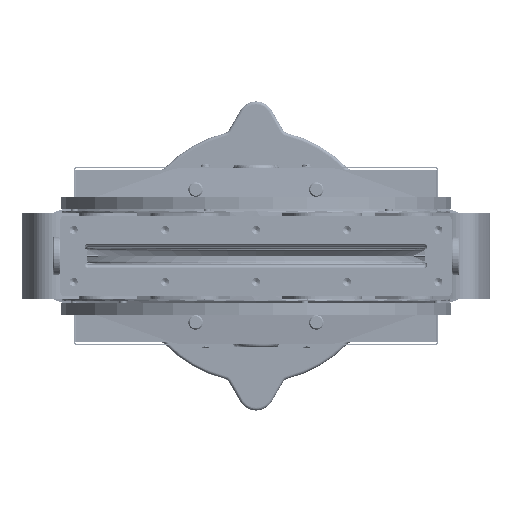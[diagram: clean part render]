
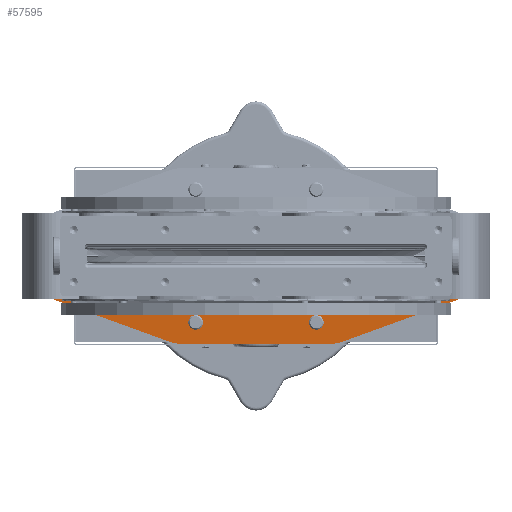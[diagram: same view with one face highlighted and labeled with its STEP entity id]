
A CAD part, front view. The second image highlights one B-rep face of the part: STEP entity #57595.
In plain terms, the highlighted planar face has unit normal (0, -0.996, -0.087).
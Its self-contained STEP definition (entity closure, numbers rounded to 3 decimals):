
#784=ELLIPSE('',#62820,38.145,38.);
#785=ELLIPSE('',#62821,38.145,38.);
#786=ELLIPSE('',#62822,15.057,15.);
#787=ELLIPSE('',#62823,15.057,15.);
#788=ELLIPSE('',#62824,15.057,15.);
#789=ELLIPSE('',#62825,15.057,15.);
#790=ELLIPSE('',#62826,6.023,6.);
#791=ELLIPSE('',#62827,6.544,6.494);
#792=ELLIPSE('',#62828,6.023,6.);
#793=ELLIPSE('',#62829,6.544,6.494);
#1875=FACE_BOUND('',#12107,.T.);
#1876=FACE_BOUND('',#12108,.T.);
#2629=PLANE('',#62819);
#8542=FACE_OUTER_BOUND('',#12106,.T.);
#12106=EDGE_LOOP('',(#45860,#45861,#45862,#45863,#45864,#45865,#45866,#45867,
#45868,#45869,#45870,#45871,#45872,#45873,#45874,#45875));
#12107=EDGE_LOOP('',(#45876,#45877));
#12108=EDGE_LOOP('',(#45878,#45879));
#18878=B_SPLINE_CURVE_WITH_KNOTS('',3,(#102937,#102938,#102939,#102940,
#102941,#102942),.UNSPECIFIED.,.F.,.F.,(4,2,4),(-20.131,-20.1,
-20.094),.UNSPECIFIED.);
#18879=B_SPLINE_CURVE_WITH_KNOTS('',3,(#102950,#102951,#102952,#102953,
#102954,#102955),.UNSPECIFIED.,.F.,.F.,(4,2,4),(-8.474,-8.468,
-8.437),.UNSPECIFIED.);
#20202=LINE('',#101541,#23071);
#20207=LINE('',#101551,#23076);
#20210=LINE('',#101559,#23079);
#20387=LINE('',#102847,#23256);
#20406=LINE('',#102946,#23275);
#20407=LINE('',#102956,#23276);
#20408=LINE('',#102961,#23277);
#20409=LINE('',#102965,#23278);
#23071=VECTOR('',#73812,1.);
#23076=VECTOR('',#73819,1.);
#23079=VECTOR('',#73826,1.);
#23256=VECTOR('',#74433,1.);
#23275=VECTOR('',#74514,1.);
#23276=VECTOR('',#74517,1.);
#23277=VECTOR('',#74522,1.);
#23278=VECTOR('',#74525,1.);
#27324=VERTEX_POINT('',#101538);
#27325=VERTEX_POINT('',#101540);
#27328=VERTEX_POINT('',#101548);
#27329=VERTEX_POINT('',#101550);
#27332=VERTEX_POINT('',#101557);
#27673=VERTEX_POINT('',#102845);
#27674=VERTEX_POINT('',#102846);
#27705=VERTEX_POINT('',#102936);
#27706=VERTEX_POINT('',#102943);
#27707=VERTEX_POINT('',#102945);
#27708=VERTEX_POINT('',#102947);
#27709=VERTEX_POINT('',#102949);
#27710=VERTEX_POINT('',#102958);
#27711=VERTEX_POINT('',#102960);
#27712=VERTEX_POINT('',#102962);
#27713=VERTEX_POINT('',#102964);
#27714=VERTEX_POINT('',#102967);
#27715=VERTEX_POINT('',#102968);
#27716=VERTEX_POINT('',#102971);
#27717=VERTEX_POINT('',#102972);
#33856=EDGE_CURVE('',#27325,#27324,#20202,.T.);
#33861=EDGE_CURVE('',#27328,#27329,#20207,.T.);
#33865=EDGE_CURVE('',#27332,#27328,#20210,.T.);
#34231=EDGE_CURVE('',#27673,#27674,#20387,.F.);
#34270=EDGE_CURVE('',#27332,#27705,#18878,.T.);
#34271=EDGE_CURVE('',#27705,#27706,#784,.F.);
#34272=EDGE_CURVE('',#27706,#27707,#20406,.T.);
#34273=EDGE_CURVE('',#27707,#27708,#785,.F.);
#34274=EDGE_CURVE('',#27708,#27709,#18879,.T.);
#34275=EDGE_CURVE('',#27325,#27709,#20407,.T.);
#34276=EDGE_CURVE('',#27324,#27673,#786,.T.);
#34277=EDGE_CURVE('',#27674,#27710,#787,.T.);
#34278=EDGE_CURVE('',#27710,#27711,#20408,.T.);
#34279=EDGE_CURVE('',#27711,#27712,#788,.T.);
#34280=EDGE_CURVE('',#27712,#27713,#20409,.F.);
#34281=EDGE_CURVE('',#27713,#27329,#789,.T.);
#34282=EDGE_CURVE('',#27714,#27715,#790,.T.);
#34283=EDGE_CURVE('',#27715,#27714,#791,.T.);
#34284=EDGE_CURVE('',#27716,#27717,#792,.T.);
#34285=EDGE_CURVE('',#27717,#27716,#793,.T.);
#45860=ORIENTED_EDGE('',*,*,#33865,.F.);
#45861=ORIENTED_EDGE('',*,*,#34270,.T.);
#45862=ORIENTED_EDGE('',*,*,#34271,.T.);
#45863=ORIENTED_EDGE('',*,*,#34272,.T.);
#45864=ORIENTED_EDGE('',*,*,#34273,.T.);
#45865=ORIENTED_EDGE('',*,*,#34274,.T.);
#45866=ORIENTED_EDGE('',*,*,#34275,.F.);
#45867=ORIENTED_EDGE('',*,*,#33856,.T.);
#45868=ORIENTED_EDGE('',*,*,#34276,.T.);
#45869=ORIENTED_EDGE('',*,*,#34231,.T.);
#45870=ORIENTED_EDGE('',*,*,#34277,.T.);
#45871=ORIENTED_EDGE('',*,*,#34278,.T.);
#45872=ORIENTED_EDGE('',*,*,#34279,.T.);
#45873=ORIENTED_EDGE('',*,*,#34280,.T.);
#45874=ORIENTED_EDGE('',*,*,#34281,.T.);
#45875=ORIENTED_EDGE('',*,*,#33861,.F.);
#45876=ORIENTED_EDGE('',*,*,#34282,.T.);
#45877=ORIENTED_EDGE('',*,*,#34283,.T.);
#45878=ORIENTED_EDGE('',*,*,#34284,.T.);
#45879=ORIENTED_EDGE('',*,*,#34285,.T.);
#57595=ADVANCED_FACE('',(#8542,#1875,#1876),#2629,.T.);
#62819=AXIS2_PLACEMENT_3D('',#102935,#74510,#74511);
#62820=AXIS2_PLACEMENT_3D('',#102944,#74512,#74513);
#62821=AXIS2_PLACEMENT_3D('',#102948,#74515,#74516);
#62822=AXIS2_PLACEMENT_3D('',#102957,#74518,#74519);
#62823=AXIS2_PLACEMENT_3D('',#102959,#74520,#74521);
#62824=AXIS2_PLACEMENT_3D('',#102963,#74523,#74524);
#62825=AXIS2_PLACEMENT_3D('',#102966,#74526,#74527);
#62826=AXIS2_PLACEMENT_3D('',#102969,#74528,#74529);
#62827=AXIS2_PLACEMENT_3D('',#102970,#74530,#74531);
#62828=AXIS2_PLACEMENT_3D('',#102973,#74532,#74533);
#62829=AXIS2_PLACEMENT_3D('',#102974,#74534,#74535);
#73812=DIRECTION('',(0.,0.087,-0.996));
#73819=DIRECTION('',(0.,0.087,-0.996));
#73826=DIRECTION('',(1.,0.,0.));
#74433=DIRECTION('',(-0.939,-0.03,0.342));
#74510=DIRECTION('center_axis',(0.,-0.996,-0.087));
#74511=DIRECTION('ref_axis',(0.,-0.087,0.996));
#74512=DIRECTION('center_axis',(0.,-0.996,-0.087));
#74513=DIRECTION('ref_axis',(0.,-0.087,0.996));
#74514=DIRECTION('',(-1.,0.,0.));
#74515=DIRECTION('center_axis',(0.,-0.996,-0.087));
#74516=DIRECTION('ref_axis',(0.,-0.087,0.996));
#74517=DIRECTION('',(1.,0.,0.));
#74518=DIRECTION('center_axis',(0.,-0.996,-0.087));
#74519=DIRECTION('ref_axis',(0.,-0.087,0.996));
#74520=DIRECTION('center_axis',(0.,-0.996,-0.087));
#74521=DIRECTION('ref_axis',(0.,0.087,-0.996));
#74522=DIRECTION('',(1.,0.,0.));
#74523=DIRECTION('center_axis',(0.,-0.996,-0.087));
#74524=DIRECTION('ref_axis',(0.,-0.087,0.996));
#74525=DIRECTION('',(-0.939,0.03,-0.342));
#74526=DIRECTION('center_axis',(0.,-0.996,-0.087));
#74527=DIRECTION('ref_axis',(0.,0.087,-0.996));
#74528=DIRECTION('center_axis',(0.,0.996,0.087));
#74529=DIRECTION('ref_axis',(0.,-0.087,0.996));
#74530=DIRECTION('center_axis',(0.,0.996,0.087));
#74531=DIRECTION('ref_axis',(0.,-0.087,
0.996));
#74532=DIRECTION('center_axis',(0.,0.996,0.087));
#74533=DIRECTION('ref_axis',(0.,-0.087,0.996));
#74534=DIRECTION('center_axis',(0.,0.996,0.087));
#74535=DIRECTION('ref_axis',(0.,-0.087,
0.996));
#101538=CARTESIAN_POINT('',(-177.,217.594,-22.142));
#101540=CARTESIAN_POINT('',(-177.,217.,-15.35));
#101541=CARTESIAN_POINT('',(-177.,222.137,-74.063));
#101548=CARTESIAN_POINT('',(177.,217.,-15.35));
#101550=CARTESIAN_POINT('',(177.,217.594,-22.142));
#101551=CARTESIAN_POINT('',(177.,217.,-15.35));
#101557=CARTESIAN_POINT('',(172.578,217.,-15.35));
#101559=CARTESIAN_POINT('',(-368621.5,217.,-15.35));
#102845=CARTESIAN_POINT('',(-167.13,218.827,-36.238));
#102846=CARTESIAN_POINT('',(-69.985,221.921,-71.596));
#102847=CARTESIAN_POINT('',(-325236.231,-10132.435,118279.239));
#102935=CARTESIAN_POINT('Origin',(-368621.5,217.,-15.35));
#102936=CARTESIAN_POINT('',(172.196,216.994,-15.28));
#102937=CARTESIAN_POINT('Ctrl Pts',(172.578,217.,-15.35));
#102938=CARTESIAN_POINT('Ctrl Pts',(172.474,217.,-15.35));
#102939=CARTESIAN_POINT('Ctrl Pts',(172.351,216.998,-15.332));
#102940=CARTESIAN_POINT('Ctrl Pts',(172.234,216.995,-15.294));
#102941=CARTESIAN_POINT('Ctrl Pts',(172.215,216.995,-15.288));
#102942=CARTESIAN_POINT('Ctrl Pts',(172.196,216.994,-15.28));
#102943=CARTESIAN_POINT('',(137.,219.065,-38.954));
#102944=CARTESIAN_POINT('Origin',(137.,215.741,-0.954));
#102945=CARTESIAN_POINT('',(-137.,219.065,-38.954));
#102946=CARTESIAN_POINT('',(-368621.5,219.065,-38.954));
#102947=CARTESIAN_POINT('',(-172.196,216.994,-15.28));
#102948=CARTESIAN_POINT('Origin',(-137.,215.741,-0.954));
#102949=CARTESIAN_POINT('',(-172.578,217.,-15.35));
#102950=CARTESIAN_POINT('Ctrl Pts',(-172.196,216.994,
-15.28));
#102951=CARTESIAN_POINT('Ctrl Pts',(-172.215,216.995,
-15.288));
#102952=CARTESIAN_POINT('Ctrl Pts',(-172.234,216.995,
-15.294));
#102953=CARTESIAN_POINT('Ctrl Pts',(-172.351,216.998,
-15.332));
#102954=CARTESIAN_POINT('Ctrl Pts',(-172.474,217.,-15.35));
#102955=CARTESIAN_POINT('Ctrl Pts',(-172.578,217.,-15.35));
#102956=CARTESIAN_POINT('',(-368621.5,217.,-15.35));
#102957=CARTESIAN_POINT('Origin',(-162.,217.594,-22.142));
#102958=CARTESIAN_POINT('',(-64.855,222.,-72.5));
#102959=CARTESIAN_POINT('Origin',(-64.855,220.688,-57.5));
#102960=CARTESIAN_POINT('',(64.855,222.,-72.5));
#102961=CARTESIAN_POINT('',(-368621.5,222.,-72.5));
#102962=CARTESIAN_POINT('',(69.985,221.921,-71.596));
#102963=CARTESIAN_POINT('Origin',(64.855,220.688,-57.5));
#102964=CARTESIAN_POINT('',(167.13,218.827,-36.238));
#102965=CARTESIAN_POINT('',(-325183.349,10579.05,-118454.128));
#102966=CARTESIAN_POINT('Origin',(162.,217.594,-22.142));
#102967=CARTESIAN_POINT('',(-47.304,220.,-49.64));
#102968=CARTESIAN_POINT('',(-52.696,220.,-49.64));
#102969=CARTESIAN_POINT('Origin',(-50.,220.469,-55.));
#102970=CARTESIAN_POINT('Origin',(-50.,220.519,-55.57));
#102971=CARTESIAN_POINT('',(52.696,220.,-49.64));
#102972=CARTESIAN_POINT('',(47.304,220.,-49.64));
#102973=CARTESIAN_POINT('Origin',(50.,220.469,-55.));
#102974=CARTESIAN_POINT('Origin',(50.,220.519,-55.57));
